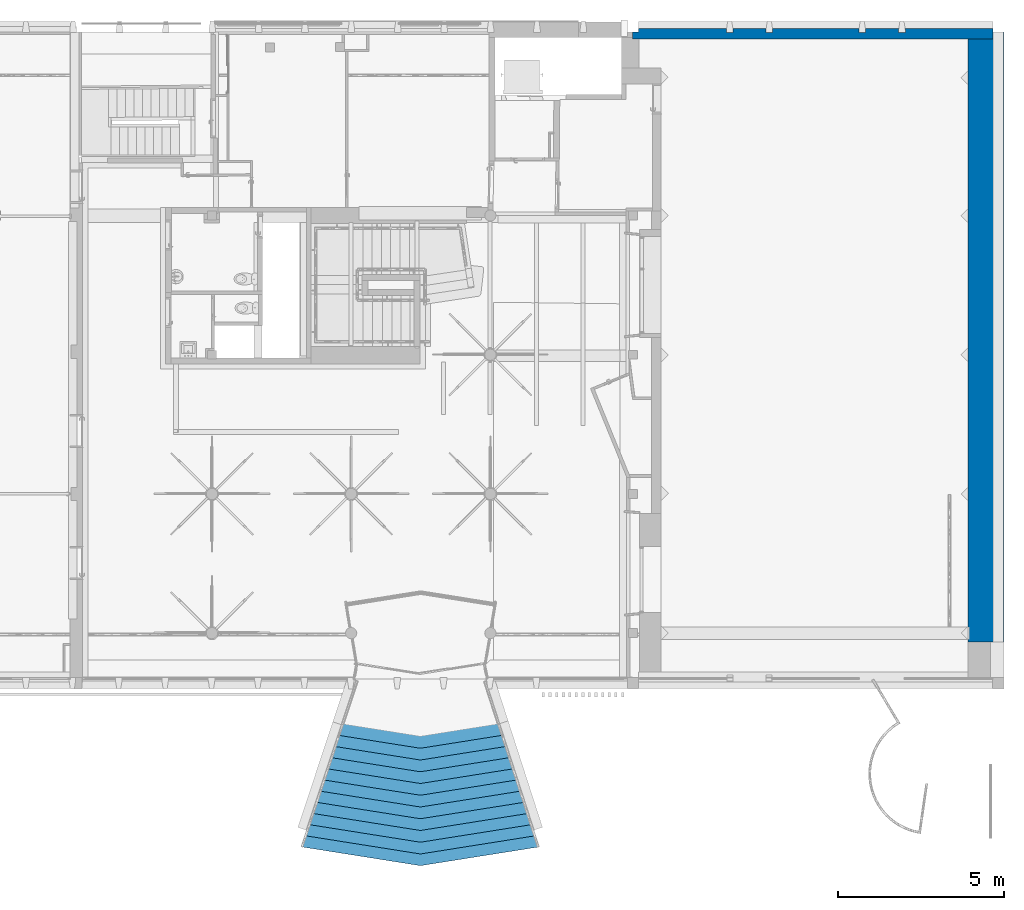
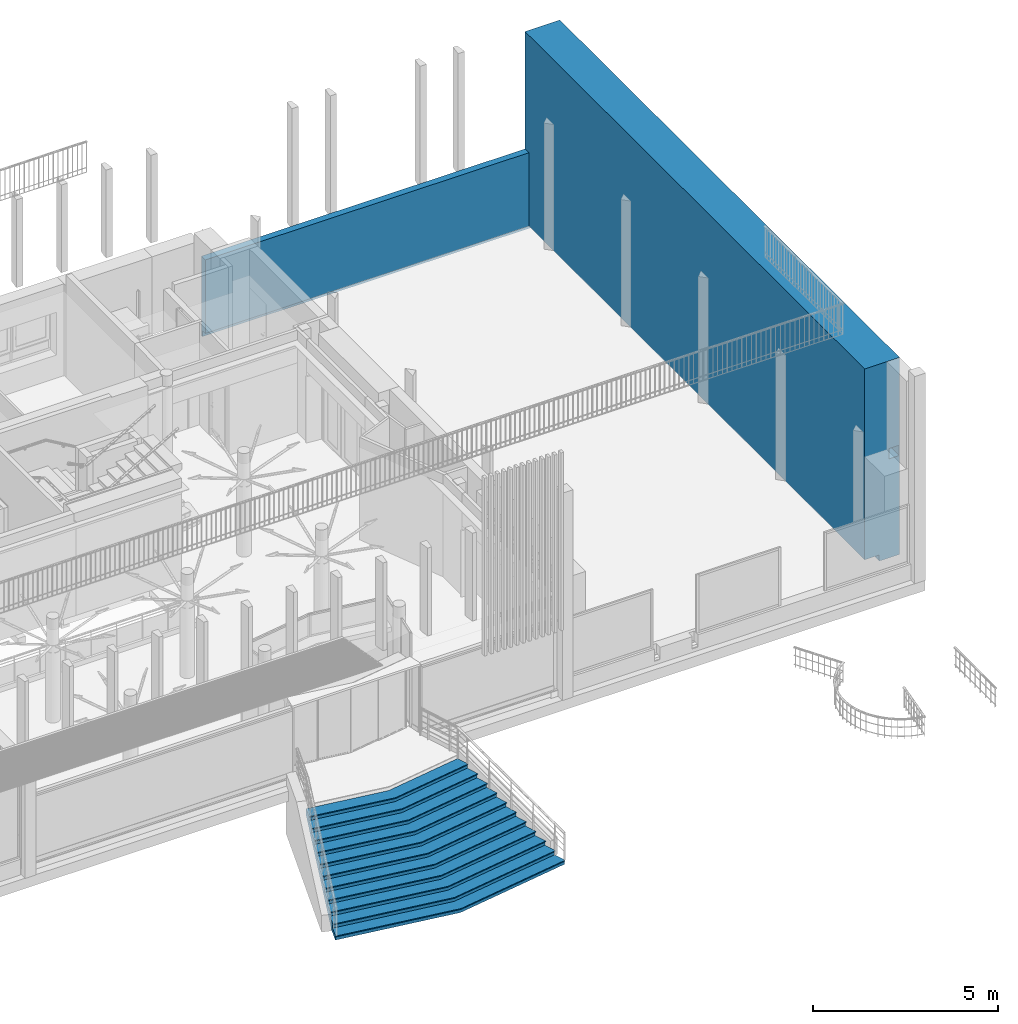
# One storey, part 45 of 65: 2 walls, 1 stair flight, 1 element without a shape of its own.
"""IFC4 building model written with IfcOpenShell, lengths in metres."""

from ifc_helpers import new_model, entity, si_unit, converted_unit, derived_unit, direction, frame, origin, place, context, subcontext, project, spatial, polygons, material, layer, layer_set, constituent, constituent_set, type_object, element, aggregate, save


model = new_model("IFC4")

# Units and contexts
model_context = context("Model", 3, precision=1e-05, world=origin(), true_north=direction((6.12303176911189e-17, 1.0)))
body_context = subcontext(model_context, "Body", "Model", "MODEL_VIEW")
ifc_project = project(units=[si_unit("LENGTHUNIT", "METRE"), si_unit("AREAUNIT", "SQUARE_METRE"), si_unit("VOLUMEUNIT", "CUBIC_METRE"), converted_unit("PLANEANGLEUNIT", "DEGREE", entity("IfcRatioMeasure", 0.0174532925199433), si_unit("PLANEANGLEUNIT", "RADIAN"), dimensions=[0, 0, 0, 0, 0, 0, 0]), si_unit("MASSUNIT", "GRAM", prefix="KILO"), derived_unit("MASSDENSITYUNIT", [(si_unit("MASSUNIT", "GRAM", prefix="KILO"), 1), (si_unit("LENGTHUNIT", "METRE"), -3)]), derived_unit("MOMENTOFINERTIAUNIT", [(si_unit("LENGTHUNIT", "METRE"), 4)]), si_unit("TIMEUNIT", "SECOND"), si_unit("FREQUENCYUNIT", "HERTZ"), si_unit("THERMODYNAMICTEMPERATUREUNIT", "DEGREE_CELSIUS"), derived_unit("THERMALTRANSMITTANCEUNIT", [(si_unit("MASSUNIT", "GRAM", prefix="KILO"), 1), (si_unit("THERMODYNAMICTEMPERATUREUNIT", "KELVIN"), -1), (si_unit("TIMEUNIT", "SECOND"), -3)]), derived_unit("VOLUMETRICFLOWRATEUNIT", [(si_unit("LENGTHUNIT", "METRE"), 3), (si_unit("TIMEUNIT", "SECOND"), -1)]), si_unit("ELECTRICCURRENTUNIT", "AMPERE"), si_unit("ELECTRICVOLTAGEUNIT", "VOLT"), si_unit("POWERUNIT", "WATT"), si_unit("FORCEUNIT", "NEWTON", prefix="KILO"), si_unit("ILLUMINANCEUNIT", "LUX"), si_unit("LUMINOUSFLUXUNIT", "LUMEN"), si_unit("LUMINOUSINTENSITYUNIT", "CANDELA"), derived_unit("USERDEFINED", [(si_unit("MASSUNIT", "GRAM", prefix="KILO"), -1), (si_unit("LENGTHUNIT", "METRE"), -2), (si_unit("TIMEUNIT", "SECOND"), 3), (si_unit("LUMINOUSFLUXUNIT", "LUMEN"), 1)]), derived_unit("LINEARVELOCITYUNIT", [(si_unit("LENGTHUNIT", "METRE"), 1), (si_unit("TIMEUNIT", "SECOND"), -1)]), si_unit("PRESSUREUNIT", "PASCAL"), derived_unit("USERDEFINED", [(si_unit("LENGTHUNIT", "METRE"), -2), (si_unit("MASSUNIT", "GRAM", prefix="KILO"), 1), (si_unit("TIMEUNIT", "SECOND"), -2)]), derived_unit("LINEARFORCEUNIT", [(si_unit("MASSUNIT", "GRAM", prefix="KILO"), 1), (si_unit("LENGTHUNIT", "METRE"), 1), (si_unit("TIMEUNIT", "SECOND"), -2), (si_unit("LENGTHUNIT", "METRE"), -1)]), derived_unit("PLANARFORCEUNIT", [(si_unit("MASSUNIT", "GRAM", prefix="KILO"), 1), (si_unit("LENGTHUNIT", "METRE"), 1), (si_unit("TIMEUNIT", "SECOND"), -2), (si_unit("LENGTHUNIT", "METRE"), -2)])], contexts=[model_context])

# Site, building, storey
site_placement = place(None, origin())
site = spatial("IfcSite", under=ifc_project, at=site_placement, Name="Default", CompositionType="ELEMENT")
building_placement = place(site_placement, origin())
building = spatial("IfcBuilding", under=site, at=building_placement, Name="HOTEL CONSULAIRE BOULOGNE SUR MER", CompositionType="ELEMENT")
storey_placement = place(building_placement, origin())
storey = spatial("IfcBuildingStorey", under=building, at=storey_placement, Name="Niveau 0", CompositionType="ELEMENT", Elevation=1.31981936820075e-13)

# Walls
ifc_material_1 = material(Name="Mur par défaut", Category="Divers")
ifc_layer_1 = layer(ifc_material_1, 0.32, Name="Mur par défaut", Category="Divers")
ifc_layer_set_1 = layer_set([ifc_layer_1], Name="Mur de base:Générique - Ext.320 mm")
wall_type_1 = type_object("IfcWallType", Name="Mur de base:Générique - Ext.320 mm", PredefinedType="NOTDEFINED", material=ifc_layer_set_1)
wall_1_placement = place(storey_placement, frame((22.3370193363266, -10.1340173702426, -0.220000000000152), z_axis=(0.0, 0.0, 1.0), x_axis=(-1.0, 0.0, 0.0)))
element("IfcWall", 1, at=wall_1_placement, inside=storey, type_object=wall_type_1, material=ifc_layer_set_1, Name="Mur de base:Générique - Ext.320 mm", ObjectType="Mur de base:Générique - Ext.320 mm", PredefinedType="NOTDEFINED", context=body_context, shape_type="Tessellation", body=[
    polygons([(3.8459648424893, -0.0493850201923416, 2.45152697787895), (2.84743931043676, -0.0493850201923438, 2.45152697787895), (2.84743931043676, -0.129348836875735, 2.45152697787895), (2.84284163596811, -0.16, 2.45152697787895), (3.85056251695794, -0.16, 2.45152697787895), (3.8459648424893, -0.129348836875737, 2.45152697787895), (6.84487647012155, -0.16, 2.45152697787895), (6.84487647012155, -0.16, 2.42400000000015), (6.84487647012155, -0.16, 6.76791955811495e-17), (7.84858035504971, -0.16, 6.76791955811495e-17), (7.84858035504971, -0.16, 2.42400000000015), (7.84858035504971, -0.16, 2.45152697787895), (8.03938500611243, -0.16, 2.45152697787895), (8.03938500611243, -0.16, 2.42400000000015), (8.03938500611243, -0.16, 6.76791955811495e-17), (10.6903810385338, -0.16, 6.76791955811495e-17), (10.6903810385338, -0.16, 2.45152697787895), (6.64947414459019, -0.0493850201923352, 2.45152697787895), (4.04596484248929, -0.0493850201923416, 2.45152697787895), (4.04596484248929, -0.12934883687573, 2.45152697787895), (4.04136716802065, -0.16, 2.45152697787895), (6.65407181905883, -0.16, 2.45152697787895), (6.64947414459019, -0.129348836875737, 2.45152697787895), (2.84284163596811, -0.16, 2.42400000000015), (2.84284163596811, -0.16, 6.76791955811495e-17), (3.85056251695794, -0.16, 6.76791955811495e-17), (3.85056251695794, -0.16, 2.42400000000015), (4.04136716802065, -0.16, 2.42400000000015), (4.04136716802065, -0.16, 6.76791955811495e-17), (6.65407181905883, -0.16, 6.76791955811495e-17), (6.65407181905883, -0.16, 2.42400000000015), (7.84398268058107, -0.0493850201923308, 2.45152697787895), (6.84947414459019, -0.0493850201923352, 2.45152697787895), (6.84947414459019, -0.12934883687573, 2.45152697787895), (7.84398268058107, -0.129348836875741, 2.45152697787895), (10.6903810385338, -0.0493850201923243, 2.45152697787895), (8.04398268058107, -0.0493850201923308, 2.45152697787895), (8.04398268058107, -0.129348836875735, 2.45152697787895), (2.6520369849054, -0.16, 6.76791955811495e-17), (2.6520369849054, -0.16, 2.42400000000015), (2.6520369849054, -0.16, 2.45152697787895), (1.73690141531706e-15, -0.16, 2.45152697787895), (1.73690141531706e-15, -0.16, 2.42400000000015), (1.73690141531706e-15, -0.16, 6.76791955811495e-17), (6.80882505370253e-16, 0.16, 2.63152697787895), (10.6758218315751, 0.16, 2.63152697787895), (10.8760607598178, 0.160000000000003, 2.63152697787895), (10.8760607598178, 0.160000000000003, 0.200000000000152), (10.6758218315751, 0.16, 0.200000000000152), (0.304083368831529, 0.16, 0.200000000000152), (0.304083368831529, 0.16, 6.76791955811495e-17), (6.80882505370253e-16, 0.16, 0.0), (0.30408336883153, -2.16573425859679e-15, 6.76791955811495e-17), (10.8760607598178, 3.46517481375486e-14, 6.76791955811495e-17), (10.8760607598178, -0.0493850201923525, 6.76791955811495e-17), (10.6903810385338, -0.0493850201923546, 6.76791955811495e-17), (8.04398268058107, -0.129348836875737, 6.76791955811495e-17), (8.04398268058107, -0.0483488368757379, 6.76791955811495e-17), (7.84398268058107, -0.0483488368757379, 6.76791955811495e-17), (7.84398268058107, -0.129348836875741, 6.76791955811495e-17), (6.84947414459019, -0.129348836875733, 6.76791955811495e-17), (6.84947414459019, -0.0483488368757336, 6.76791955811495e-17), (6.64947414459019, -0.0483488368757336, 6.76791955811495e-17), (6.64947414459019, -0.129348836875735, 6.76791955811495e-17), (4.04596484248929, -0.129348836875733, 6.76791955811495e-17), (4.04596484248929, -0.0483488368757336, 6.76791955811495e-17), (3.8459648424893, -0.0483488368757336, 6.76791955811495e-17), (3.8459648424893, -0.129348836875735, 6.76791955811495e-17), (2.84743931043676, -0.129348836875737, 6.76791955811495e-17), (2.84743931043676, -0.0483488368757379, 6.76791955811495e-17), (2.64743931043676, -0.0483488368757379, 6.76791955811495e-17), (2.64743931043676, -0.129348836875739, 6.76791955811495e-17), (1.37186544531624e-15, -0.0493850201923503, 2.63152697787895), (10.6903810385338, -0.0493850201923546, 2.63152697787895), (10.8760607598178, -0.0493850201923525, 2.63152697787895), (10.8760607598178, 0.10630679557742, 2.63152697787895), (1.37186544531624e-15, -0.0493850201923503, 2.45152697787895), (2.64743931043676, -0.0493850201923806, 2.45152697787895), (10.8760607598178, 0.106306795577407, 0.200000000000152), (10.8760607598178, 3.46517481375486e-14, 0.200000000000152), (0.30408336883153, -2.16573425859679e-15, 0.200000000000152), (2.84743931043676, -0.0483488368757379, 2.45152697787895), (2.64743931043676, -0.0483488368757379, 2.45152697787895), (2.64743931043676, -0.129348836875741, 2.45152697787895), (4.04596484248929, -0.0483488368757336, 2.45152697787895), (3.8459648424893, -0.0483488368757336, 2.45152697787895), (6.84947414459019, -0.0483488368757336, 2.45152697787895), (6.64947414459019, -0.0483488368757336, 2.45152697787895), (8.04398268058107, -0.0483488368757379, 2.45152697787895), (7.84398268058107, -0.0483488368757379, 2.45152697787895)], [[[1, 2, 3, 4, 5, 6]], [[18, 19, 20, 21, 22, 23]], [[32, 33, 34, 7, 12, 35]], [[17, 36, 37, 38, 13]], [[74, 75, 76, 47, 46, 45, 73]], [[84, 78, 77, 42, 41]], [[8, 9, 10, 11, 12, 7]], [[14, 15, 16, 17, 13]], [[24, 25, 26, 27, 5, 4]], [[28, 29, 30, 31, 22, 21]], [[43, 44, 39, 40, 41, 42]], [[74, 73, 77, 78, 2, 1, 19, 18, 33, 32, 37, 36, 56, 55, 75]], [[70, 82, 83, 71]], [[66, 85, 86, 67]], [[62, 87, 88, 63]], [[58, 89, 90, 59]], [[48, 49, 50, 51, 52, 45, 46, 47]], [[80, 54, 53, 81]], [[69, 70, 71, 72, 39, 44, 52, 51, 53, 54, 55, 56, 16, 15, 57, 58, 59, 60, 10, 9, 61, 62, 63, 64, 30, 29, 65, 66, 67, 68, 26, 25]], [[49, 48, 79, 80, 81, 50]], [[82, 2, 78, 83]], [[85, 19, 1, 86]], [[87, 33, 18, 88]], [[89, 37, 32, 90]], [[43, 42, 77, 73, 45, 52, 44]], [[70, 69, 3, 2, 82]], [[66, 65, 20, 19, 85]], [[62, 61, 34, 33, 87]], [[58, 57, 38, 37, 89]], [[16, 56, 36, 17]], [[72, 71, 83, 78, 84]], [[68, 67, 86, 1, 6]], [[64, 63, 88, 18, 23]], [[60, 59, 90, 32, 35]], [[50, 81, 53, 51]], [[55, 54, 80, 79, 48, 47, 76, 75]], [[24, 4, 3, 69, 25]], [[28, 21, 20, 65, 29]], [[8, 7, 34, 61, 9]], [[14, 13, 38, 57, 15]], [[40, 39, 72, 84, 41]], [[27, 26, 68, 6, 5]], [[31, 30, 64, 23, 22]], [[11, 10, 60, 35, 12]]], closed=True),
])
ifc_layer_2 = layer(ifc_material_1, 1.09, Name="Mur par défaut", Category="Divers")
ifc_layer_set_2 = layer_set([ifc_layer_2], Name="Mur de base:Générique - Ext.1.09m")
wall_type_2 = type_object("IfcWallType", Name="Mur de base:Générique - Ext.1.09m", PredefinedType="NOTDEFINED", material=ifc_layer_set_2)
wall_2_placement = place(storey_placement, frame((22.1229359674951, -10.0846323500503, -0.220000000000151), z_axis=(0.0, 0.0, 1.0), x_axis=(0.0, -1.0, 0.0)))
element("IfcWall", 2, at=wall_2_placement, inside=storey, type_object=wall_type_2, material=ifc_layer_set_2, Name="Mur de base:Générique - Ext.1.09m", ObjectType="Mur de base:Générique - Ext.1.09m", PredefinedType="NOTDEFINED", context=body_context, shape_type="Tessellation", body=[
    polygons([(18.3962774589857, -0.544999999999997, 6.51174152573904), (0.0, -0.544999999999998, 6.51174152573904), (0.0, -0.544999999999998, -2.03037586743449e-16), (0.0493850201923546, -0.544999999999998, -2.03037586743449e-16), (0.0493850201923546, -0.544999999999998, 0.200000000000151), (0.209385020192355, -0.544999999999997, 0.200000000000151), (18.3962774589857, -0.544999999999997, 0.200000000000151), (18.3962774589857, -0.544999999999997, 3.61112697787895), (18.3962774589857, 0.545000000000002, -2.03037586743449e-16), (0.0, 0.545000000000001, 0.0), (0.0, 0.545000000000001, 6.51174152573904), (18.3962774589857, 0.545000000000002, 6.51174152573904), (18.3962774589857, 0.545000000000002, 3.61112697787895), (18.3962774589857, -0.0899999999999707, -2.03037586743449e-16), (0.0493850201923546, -0.0900000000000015, -2.03037586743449e-16), (18.3962774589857, 0.145000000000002, 6.51174152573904), (0.0, 0.535702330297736, 3.27112697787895), (0.0, 0.535702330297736, 3.61112697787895), (2.16573425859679e-15, 0.215702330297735, 3.61112697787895), (2.16573425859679e-15, 0.215702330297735, 3.27112697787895), (0.0493850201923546, -0.0900000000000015, 0.200000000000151), (18.3962774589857, -0.0899999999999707, 0.200000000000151), (18.3962774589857, 0.535702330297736, 3.61112697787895), (18.3962774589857, 0.535702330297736, 3.27112697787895), (18.3962774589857, 0.215702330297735, 3.27112697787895), (18.3962774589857, 0.215702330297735, 3.61112697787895)], [[[3, 4, 5, 6, 7, 8, 1, 2]], [[21, 15, 14, 22]], [[24, 23, 18, 17]], [[13, 9, 10, 11, 12]], [[26, 25, 20, 19]], [[15, 4, 3, 10, 9, 14]], [[6, 5, 21, 22, 7]], [[23, 26, 19, 18]], [[2, 1, 16, 12, 11]], [[25, 24, 17, 20]], [[2, 11, 10, 3], [20, 17, 18, 19]], [[22, 14, 9, 13, 12, 16, 1, 8, 7], [25, 26, 23, 24]], [[5, 4, 15, 21]]], closed=True),
])

# Stair, stair flight
stair_type = type_object("IfcStairType", Name="Escalier coulé sur place:Monobloc 2", PredefinedType="STRAIGHT_RUN_STAIR")
stair_placement = place(storey_placement, origin())
stair = element("IfcStair", 3, at=stair_placement, inside=storey, type_object=stair_type, Name="Escalier coulé sur place:Escalier", ObjectType="Escalier coulé sur place:Monobloc 2", PredefinedType="STRAIGHT_RUN_STAIR")
ifc_material_2 = material(Name="carrelage 30x30")
ifc_constituent_1 = constituent(ifc_material_2, Name="carrelage 30x30", Category="Matériaux")
ifc_material_3 = material(Name="Maçonnerie - Béton", Category="Béton")
ifc_constituent_2 = constituent(ifc_material_3, Name="Maçonnerie - Béton", Category="Matériaux")
ifc_constituent_set = constituent_set(constituents=[ifc_constituent_1, ifc_constituent_2], Name="MaterialConstituentSet")
stair_flight_type = type_object("IfcStairFlightType", Name="Volée monobloc:Profondeur de structure 180", PredefinedType="NOTDEFINED")
stair_flight_placement = place(stair_placement, frame((1.46101337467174, -35.2330668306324, 0.0)))
stair_flight = element("IfcStairFlight", 4, at=stair_flight_placement, type_object=stair_flight_type, material=ifc_constituent_set, Name="Escalier coulé sur place:Escalier:638436 Run 1", ObjectType="Volée monobloc:Profondeur de structure 180", PredefinedType="NOTDEFINED", context=body_context, shape_type="Tessellation", body=[
    polygons([(0.121255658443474, 0.935690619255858, -1.66961666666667), (8.12150346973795e-16, 0.570158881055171, -1.66961666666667), (3.59984149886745, 0.0, -1.66961666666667), (7.18092217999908, 0.56718745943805, -1.66961666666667), (7.06274474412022, 0.93320674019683, -1.66961666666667), (3.59984149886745, 0.384736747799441, -1.66961666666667), (0.121255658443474, 0.935690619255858, -1.69961666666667), (3.59984149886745, 0.384736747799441, -1.69961666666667), (7.06274474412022, 0.93320674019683, -1.69961666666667), (7.18092217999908, 0.567187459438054, -1.69961666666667), (3.59984149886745, 0.0, -1.69961666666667), (2.70716782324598e-16, 0.570158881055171, -1.69961666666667)], [[[5, 6, 1, 2, 3, 4]], [[12, 7, 8, 9, 10, 11]], [[2, 1, 7, 12]], [[3, 2, 12, 11]], [[4, 3, 11, 10]], [[5, 4, 10, 9]], [[6, 5, 9, 8]], [[1, 6, 8, 7]]], closed=True),
    polygons([(0.232938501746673, 1.27236458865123, -1.51783333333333), (0.111682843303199, 0.906832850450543, -1.51783333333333), (3.59984149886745, 0.354362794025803, -1.51783333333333), (7.07207454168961, 0.90431048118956, -1.51783333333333), (6.95389710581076, 1.27032976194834, -1.51783333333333), (3.59984149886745, 0.73909954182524, -1.51783333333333), (0.232938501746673, 1.27236458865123, -1.54783333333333), (3.59984149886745, 0.739099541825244, -1.54783333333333), (6.95389710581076, 1.27032976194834, -1.54783333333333), (7.07207454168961, 0.90431048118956, -1.54783333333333), (3.59984149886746, 0.354362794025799, -1.54783333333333), (0.1116828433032, 0.906832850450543, -1.54783333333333)], [[[5, 6, 1, 2, 3, 4]], [[12, 7, 8, 9, 10, 11]], [[2, 1, 7, 12]], [[3, 2, 12, 11]], [[4, 3, 11, 10]], [[5, 4, 10, 9]], [[6, 5, 9, 8]], [[1, 6, 8, 7]]], closed=True),
    polygons([(0.344621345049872, 1.6090385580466, -1.36605), (0.223365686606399, 1.24350681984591, -1.36605), (3.59984149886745, 0.708725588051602, -1.36605), (6.96322690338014, 1.24143350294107, -1.36605), (6.84504946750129, 1.60745278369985, -1.36605), (3.59984149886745, 1.09346233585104, -1.36605), (0.344621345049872, 1.6090385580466, -1.39605), (3.59984149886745, 1.09346233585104, -1.39605), (6.84504946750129, 1.60745278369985, -1.39605), (6.96322690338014, 1.24143350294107, -1.39605), (3.59984149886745, 0.708725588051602, -1.39605), (0.223365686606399, 1.24350681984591, -1.39605)], [[[5, 6, 1, 2, 3, 4]], [[12, 7, 8, 9, 10, 11]], [[2, 1, 7, 12]], [[3, 2, 12, 11]], [[4, 3, 11, 10]], [[5, 4, 10, 9]], [[6, 5, 9, 8]], [[1, 6, 8, 7]]], closed=True),
    polygons([(0.456304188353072, 1.94571252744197, -1.21426666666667), (0.335048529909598, 1.58018078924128, -1.21426666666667), (3.59984149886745, 1.06308838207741, -1.21426666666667), (6.85437926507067, 1.57855652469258, -1.21426666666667), (6.73620182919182, 1.94457580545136, -1.21426666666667), (3.59984149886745, 1.44782512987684, -1.21426666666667), (0.456304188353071, 1.94571252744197, -1.24426666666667), (3.59984149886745, 1.44782512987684, -1.24426666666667), (6.73620182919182, 1.94457580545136, -1.24426666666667), (6.85437926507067, 1.57855652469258, -1.24426666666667), (3.59984149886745, 1.0630883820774, -1.24426666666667), (0.335048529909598, 1.58018078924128, -1.24426666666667)], [[[5, 6, 1, 2, 3, 4]], [[12, 7, 8, 9, 10, 11]], [[2, 1, 7, 12]], [[3, 2, 12, 11]], [[4, 3, 11, 10]], [[5, 4, 10, 9]], [[6, 5, 9, 8]], [[1, 6, 8, 7]]], closed=True),
    polygons([(0.567987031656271, 2.28238649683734, -1.06248333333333), (0.446731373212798, 1.91685475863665, -1.06248333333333), (3.59984149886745, 1.4174511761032, -1.06248333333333), (6.7455316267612, 1.91567954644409, -1.06248333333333), (6.62735419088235, 2.28169882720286, -1.06248333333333), (3.59984149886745, 1.80218792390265, -1.06248333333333), (0.567987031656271, 2.28238649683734, -1.09248333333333), (3.59984149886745, 1.80218792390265, -1.09248333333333), (6.62735419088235, 2.28169882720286, -1.09248333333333), (6.7455316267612, 1.91567954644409, -1.09248333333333), (3.59984149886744, 1.4174511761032, -1.09248333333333), (0.446731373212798, 1.91685475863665, -1.09248333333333)], [[[5, 6, 1, 2, 3, 4]], [[12, 7, 8, 9, 10, 11]], [[2, 1, 7, 12]], [[3, 2, 12, 11]], [[4, 3, 11, 10]], [[5, 4, 10, 9]], [[6, 5, 9, 8]], [[1, 6, 8, 7]]], closed=True),
    polygons([(0.67966987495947, 2.61906046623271, -0.9107), (0.558414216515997, 2.25352872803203, -0.9107), (3.59984149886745, 1.771813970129, -0.9107), (6.63668398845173, 2.25280256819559, -0.9107), (6.51850655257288, 2.61882184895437, -0.9107), (3.59984149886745, 2.15655071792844, -0.9107), (0.67966987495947, 2.61906046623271, -0.9407), (3.59984149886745, 2.15655071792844, -0.9407), (6.51850655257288, 2.61882184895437, -0.9407), (6.63668398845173, 2.25280256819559, -0.9407), (3.59984149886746, 1.771813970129, -0.9407), (0.558414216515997, 2.25352872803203, -0.9407)], [[[5, 6, 1, 2, 3, 4]], [[12, 7, 8, 9, 10, 11]], [[2, 1, 7, 12]], [[3, 2, 12, 11]], [[4, 3, 11, 10]], [[5, 4, 10, 9]], [[6, 5, 9, 8]], [[1, 6, 8, 7]]], closed=True),
    polygons([(0.791352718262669, 2.95573443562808, -0.758916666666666), (0.670097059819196, 2.59020269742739, -0.758916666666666), (3.59984149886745, 2.12617676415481, -0.758916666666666), (6.52783635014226, 2.5899255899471, -0.758916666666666), (6.40965891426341, 2.95594487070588, -0.758916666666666), (3.59984149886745, 2.51091351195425, -0.758916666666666), (0.791352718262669, 2.95573443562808, -0.788916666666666), (3.59984149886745, 2.51091351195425, -0.788916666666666), (6.40965891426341, 2.95594487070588, -0.788916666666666), (6.52783635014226, 2.5899255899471, -0.788916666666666), (3.59984149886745, 2.12617676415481, -0.788916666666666), (0.670097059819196, 2.59020269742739, -0.788916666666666)], [[[5, 6, 1, 2, 3, 4]], [[12, 7, 8, 9, 10, 11]], [[2, 1, 7, 12]], [[3, 2, 12, 11]], [[4, 3, 11, 10]], [[5, 4, 10, 9]], [[6, 5, 9, 8]], [[1, 6, 8, 7]]], closed=True),
    polygons([(0.903035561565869, 3.29240840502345, -0.607133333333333), (0.781779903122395, 2.92687666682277, -0.607133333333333), (3.59984149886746, 2.48053955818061, -0.607133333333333), (6.4189887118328, 2.92704861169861, -0.607133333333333), (6.30081127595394, 3.29306789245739, -0.607133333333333), (3.59984149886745, 2.86527630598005, -0.607133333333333), (0.903035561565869, 3.29240840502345, -0.637133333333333), (3.59984149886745, 2.86527630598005, -0.637133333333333), (6.30081127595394, 3.29306789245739, -0.637133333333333), (6.4189887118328, 2.92704861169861, -0.637133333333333), (3.59984149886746, 2.48053955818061, -0.637133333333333), (0.781779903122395, 2.92687666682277, -0.637133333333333)], [[[5, 6, 1, 2, 3, 4]], [[12, 7, 8, 9, 10, 11]], [[2, 1, 7, 12]], [[3, 2, 12, 11]], [[4, 3, 11, 10]], [[5, 4, 10, 9]], [[6, 5, 9, 8]], [[1, 6, 8, 7]]], closed=True),
    polygons([(1.01471840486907, 3.62908237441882, -0.45535), (0.893462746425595, 3.26355063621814, -0.45535), (3.59984149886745, 2.83490235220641, -0.45535), (6.31014107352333, 3.26417163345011, -0.45535), (6.19196363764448, 3.63019091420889, -0.45535), (3.59984149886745, 3.21963910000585, -0.45535), (1.01471840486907, 3.62908237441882, -0.48535), (3.59984149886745, 3.21963910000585, -0.48535), (6.19196363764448, 3.63019091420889, -0.48535), (6.31014107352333, 3.26417163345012, -0.48535), (3.59984149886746, 2.83490235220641, -0.48535), (0.893462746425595, 3.26355063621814, -0.48535)], [[[5, 6, 1, 2, 3, 4]], [[12, 7, 8, 9, 10, 11]], [[2, 1, 7, 12]], [[3, 2, 12, 11]], [[4, 3, 11, 10]], [[5, 4, 10, 9]], [[6, 5, 9, 8]], [[1, 6, 8, 7]]], closed=True),
    polygons([(1.12640124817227, 3.9657563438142, -0.303566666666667), (1.00514558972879, 3.60022460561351, -0.303566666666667), (3.59984149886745, 3.18926514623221, -0.303566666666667), (6.20129343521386, 3.60129465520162, -0.303566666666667), (6.08311599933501, 3.9673139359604, -0.303566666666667), (3.59984149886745, 3.57400189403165, -0.303566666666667), (1.12640124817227, 3.9657563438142, -0.333566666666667), (3.59984149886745, 3.57400189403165, -0.333566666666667), (6.08311599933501, 3.9673139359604, -0.333566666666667), (6.20129343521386, 3.60129465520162, -0.333566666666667), (3.59984149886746, 3.18926514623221, -0.333566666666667), (1.00514558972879, 3.60022460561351, -0.333566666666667)], [[[5, 6, 1, 2, 3, 4]], [[12, 7, 8, 9, 10, 11]], [[2, 1, 7, 12]], [[3, 2, 12, 11]], [[4, 3, 11, 10]], [[5, 4, 10, 9]], [[6, 5, 9, 8]], [[1, 6, 8, 7]]], closed=True),
    polygons([(1.23808409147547, 4.30243031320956, -0.151783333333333), (1.11682843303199, 3.93689857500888, -0.151783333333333), (3.59984149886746, 3.54362794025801, -0.151783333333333), (6.09244579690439, 3.93841767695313, -0.151783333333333), (5.97426836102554, 4.30443695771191, -0.151783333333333), (3.59984149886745, 3.92836468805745, -0.151783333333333), (1.23808409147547, 4.30243031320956, -0.181783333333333), (3.59984149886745, 3.92836468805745, -0.181783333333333), (5.97426836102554, 4.30443695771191, -0.181783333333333), (6.09244579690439, 3.93841767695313, -0.181783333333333), (3.59984149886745, 3.54362794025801, -0.181783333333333), (1.11682843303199, 3.93689857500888, -0.181783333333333)], [[[5, 6, 1, 2, 3, 4]], [[12, 7, 8, 9, 10, 11]], [[2, 1, 7, 12]], [[3, 2, 12, 11]], [[4, 3, 11, 10]], [[5, 4, 10, 9]], [[6, 5, 9, 8]], [[1, 6, 8, 7]]], closed=True),
    polygons([(0.121255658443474, 0.935690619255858, -1.69961666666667), (0.00957281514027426, 0.599016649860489, -1.69961666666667), (3.59984149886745, 0.0303739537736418, -1.69961666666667), (7.17159238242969, 0.596083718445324, -1.69961666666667), (7.06274474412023, 0.933206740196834, -1.69961666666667), (3.59984149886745, 0.384736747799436, -1.69961666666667), (0.121255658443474, 0.935690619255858, -1.8214), (0.00957281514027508, 0.599016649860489, -1.8214), (3.59984149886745, 0.0303739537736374, -1.8214), (7.17159238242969, 0.596083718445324, -1.8214), (7.06274474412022, 0.93320674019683, -1.8214), (0.232938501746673, 1.27236458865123, -1.54783333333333), (0.121255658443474, 0.935690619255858, -1.54783333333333), (3.59984149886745, 0.384736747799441, -1.54783333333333), (7.06274474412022, 0.93320674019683, -1.54783333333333), (6.95389710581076, 1.27032976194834, -1.54783333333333), (3.59984149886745, 0.73909954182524, -1.54783333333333), (0.232938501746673, 1.27236458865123, -1.74578875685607), (0.177303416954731, 1.10464961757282, -1.8214), (7.00830325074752, 1.10182299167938, -1.8214), (6.95389710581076, 1.27032976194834, -1.74545236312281), (0.344621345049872, 1.6090385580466, -1.39605), (0.232938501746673, 1.27236458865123, -1.39605), (3.59984149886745, 0.739099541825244, -1.39605), (6.95389710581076, 1.27032976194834, -1.39605), (6.84504946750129, 1.60745278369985, -1.39605), (3.59984149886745, 1.09346233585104, -1.39605), (0.344621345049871, 1.60903855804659, -1.59400542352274), (6.84504946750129, 1.60745278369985, -1.59350774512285), (0.456304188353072, 1.94571252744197, -1.24426666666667), (0.344621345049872, 1.6090385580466, -1.24426666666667), (3.59984149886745, 1.09346233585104, -1.24426666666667), (6.84504946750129, 1.60745278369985, -1.24426666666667), (6.73620182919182, 1.94457580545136, -1.24426666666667), (3.59984149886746, 1.44782512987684, -1.24426666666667), (0.456304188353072, 1.94571252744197, -1.4422220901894), (6.73620182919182, 1.94457580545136, -1.44156312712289), (0.567987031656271, 2.28238649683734, -1.09248333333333), (0.456304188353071, 1.94571252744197, -1.09248333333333), (3.59984149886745, 1.44782512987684, -1.09248333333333), (6.73620182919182, 1.94457580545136, -1.09248333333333), (6.62735419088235, 2.28169882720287, -1.09248333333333), (3.59984149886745, 1.80218792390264, -1.09248333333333), (0.56798703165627, 2.28238649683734, -1.29043875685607), (6.62735419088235, 2.28169882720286, -1.28961850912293), (0.67966987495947, 2.61906046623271, -0.9407), (0.567987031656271, 2.28238649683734, -0.9407), (3.59984149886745, 1.80218792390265, -0.9407), (6.62735419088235, 2.28169882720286, -0.9407), (6.51850655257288, 2.61882184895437, -0.9407), (3.59984149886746, 2.15655071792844, -0.9407), (0.67966987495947, 2.61906046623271, -1.13865542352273), (6.51850655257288, 2.61882184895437, -1.13767389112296), (0.791352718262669, 2.95573443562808, -0.788916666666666), (0.67966987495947, 2.61906046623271, -0.788916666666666), (3.59984149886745, 2.15655071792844, -0.788916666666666), (6.51850655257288, 2.61882184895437, -0.788916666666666), (6.40965891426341, 2.95594487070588, -0.788916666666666), (3.59984149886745, 2.51091351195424, -0.788916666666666), (0.791352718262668, 2.95573443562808, -0.986872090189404), (6.40965891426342, 2.95594487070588, -0.985729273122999), (0.903035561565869, 3.29240840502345, -0.637133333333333), (0.791352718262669, 2.95573443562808, -0.637133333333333), (3.59984149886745, 2.51091351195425, -0.637133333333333), (6.40965891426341, 2.95594487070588, -0.637133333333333), (6.30081127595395, 3.29306789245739, -0.637133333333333), (3.59984149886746, 2.86527630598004, -0.637133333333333), (0.903035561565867, 3.29240840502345, -0.835088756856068), (6.30081127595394, 3.29306789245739, -0.833784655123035), (1.01471840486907, 3.62908237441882, -0.48535), (0.903035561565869, 3.29240840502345, -0.48535), (3.59984149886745, 2.86527630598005, -0.48535), (6.30081127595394, 3.29306789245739, -0.48535), (6.19196363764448, 3.6301909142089, -0.48535), (3.59984149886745, 3.21963910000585, -0.48535), (1.01471840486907, 3.62908237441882, -0.683305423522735), (6.19196363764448, 3.63019091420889, -0.681840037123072), (1.12640124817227, 3.9657563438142, -0.333566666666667), (1.01471840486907, 3.62908237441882, -0.333566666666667), (3.59984149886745, 3.21963910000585, -0.333566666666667), (6.19196363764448, 3.63019091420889, -0.333566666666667), (6.08311599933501, 3.9673139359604, -0.333566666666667), (3.59984149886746, 3.57400189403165, -0.333566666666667), (1.12640124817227, 3.9657563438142, -0.531522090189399), (6.08311599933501, 3.9673139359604, -0.529895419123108), (1.23808409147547, 4.30243031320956, -0.181783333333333), (1.12640124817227, 3.9657563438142, -0.181783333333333), (3.59984149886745, 3.57400189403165, -0.181783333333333), (6.08311599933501, 3.9673139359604, -0.181783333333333), (5.97426836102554, 4.30443695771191, -0.181783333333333), (3.59984149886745, 3.92836468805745, -0.181783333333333), (1.23808409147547, 4.30243031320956, -0.379738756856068), (5.97426836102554, 4.30443695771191, -0.377950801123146), (3.59984149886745, 3.92836468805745, -0.547915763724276)], [[[5, 6, 1, 2, 3, 4]], [[16, 17, 12, 13, 14, 15]], [[26, 27, 22, 23, 24, 25]], [[34, 35, 30, 31, 32, 33]], [[42, 43, 38, 39, 40, 41]], [[50, 51, 46, 47, 48, 49]], [[58, 59, 54, 55, 56, 57]], [[66, 67, 62, 63, 64, 65]], [[74, 75, 70, 71, 72, 73]], [[82, 83, 78, 79, 80, 81]], [[90, 91, 86, 87, 88, 89]], [[2, 1, 13, 12, 23, 22, 31, 30, 39, 38, 47, 46, 55, 54, 63, 62, 71, 70, 79, 78, 87, 86, 92, 84, 76, 68, 60, 52, 44, 36, 28, 18, 19, 7, 8]], [[3, 2, 8, 9]], [[14, 13, 1, 6]], [[24, 23, 12, 17]], [[32, 31, 22, 27]], [[40, 39, 30, 35]], [[48, 47, 38, 43]], [[56, 55, 46, 51]], [[64, 63, 54, 59]], [[72, 71, 62, 67]], [[80, 79, 70, 75]], [[88, 87, 78, 83]], [[4, 3, 9, 10]], [[15, 14, 6, 5]], [[25, 24, 17, 16]], [[33, 32, 27, 26]], [[41, 40, 35, 34]], [[49, 48, 43, 42]], [[57, 56, 51, 50]], [[65, 64, 59, 58]], [[73, 72, 67, 66]], [[81, 80, 75, 74]], [[89, 88, 83, 82]], [[5, 4, 10, 11, 20, 21, 29, 37, 45, 53, 61, 69, 77, 85, 93, 90, 89, 82, 81, 74, 73, 66, 65, 58, 57, 50, 49, 42, 41, 34, 33, 26, 25, 16, 15]], [[91, 90, 93, 94]], [[86, 91, 94, 92]], [[7, 19, 20, 11, 10, 9, 8]], [[60, 68, 76, 84, 92, 94, 93, 85, 77, 69, 61, 53, 45, 37, 29, 21, 20, 19, 18, 28, 36, 44, 52]]], closed=True),
])
aggregate(stair, [stair_flight])

save(model, "model.ifc")
